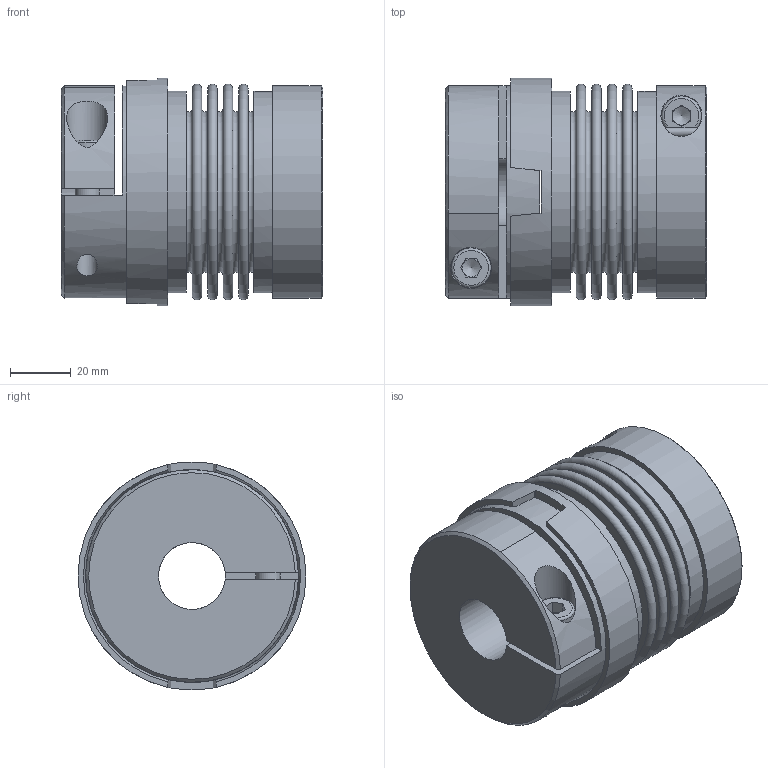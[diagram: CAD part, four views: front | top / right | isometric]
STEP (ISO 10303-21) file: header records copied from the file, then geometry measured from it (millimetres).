
FILE_DESCRIPTION( ( 'Unknown' ), '1' );
FILE_NAME( 'F:/JAKOB-STEP+IGES-Dateien/STEP-Dateien/KPP/KPP 100.stp', 'Unknown', ( 'Unknown' ), ( 'Unknown' ), 'PSStep 10.1', 'Unknown', ' ' );
FILE_SCHEMA( ( 'AUTOMOTIVE_DESIGN { 1 0 10303 214 1 1 1 1 }' ) );
Length unit declared in the file: millimetre
Products named in the file (1): KT101716
Bounding box: 86 x 75 x 75 mm (x, y, z)
Volume: 209345.3 mm3; surface area: 82215.2 mm2
Topology: 1 solids, 1 shells, 134 faces, 309 edges, 200 vertices
Faces by surface type: plane 86, cylinder 22, torus 20, cone 6
Full cylindrical faces by diameter (mm): 6.8 x2, 8 x2, 8.5 x2, 13 x2, 13.5 x2, 22 x1, 39 x1, 66.2 x2, 70 x1, 75 x1
Entity records: 4920 total; most frequent: CARTESIAN_POINT 949, DIRECTION 642, ORIENTED_EDGE 502, AXIS2_PLACEMENT_3D 262, EDGE_CURVE 251, EDGE_LOOP 204, VERTEX_POINT 183, FACE_OUTER_BOUND 169
